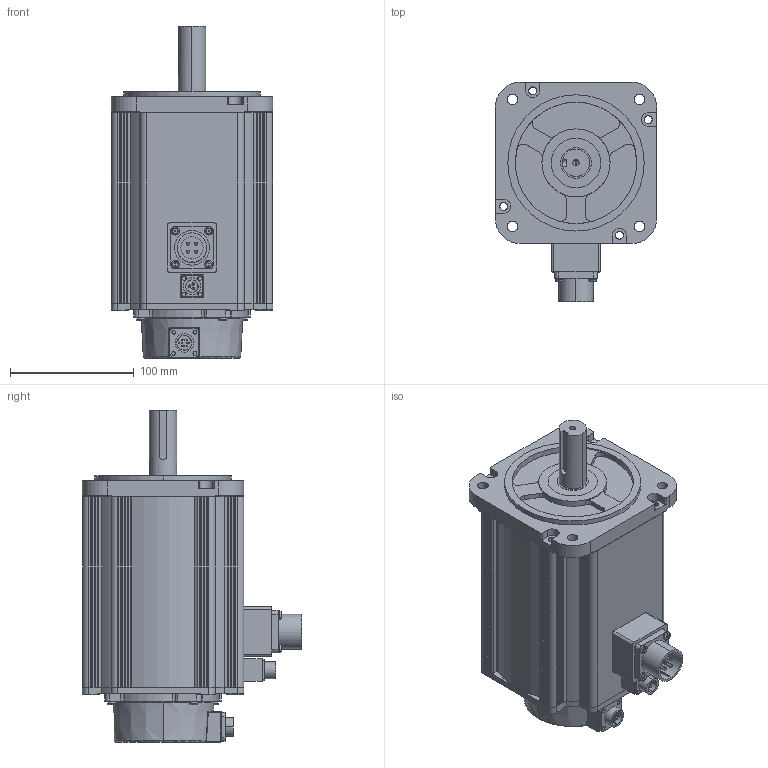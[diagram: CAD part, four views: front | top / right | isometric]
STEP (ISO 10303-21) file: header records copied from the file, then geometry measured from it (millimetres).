
FILE_DESCRIPTION (( 'STEP AP203' ), '1' );
FILE_NAME ('130E-14615 - Z.STEP', '2024-09-05T11:18:38', ( '' ), ( '' ), 'SwSTEP 2.0', 'SolidWorks 2018', '' );
FILE_SCHEMA (( 'CONFIG_CONTROL_DESIGN' ));
Length unit declared in the file: millimetre
Products named in the file (12): 130E-14615 - Z; XS12J3Z; 130A諉盄釱-1; 18-10; 130A綴裔潠謹; 儂褲-14.6N.M -Z; 100惕掅菁釱; 橈勤硉晤鎢ん誘欶  S13E.10-01; 130Aǰ; 堤粣; 蚐猾; SC-CMV1-R10P-E
Assembly tree (11 placements, depth 2):
  130E-14615 - Z
    130A綴裔潠謹
    130A諉盄釱-1
    130Aǰ
    堤粣
    蚐猾
    儂褲-14.6N.M -Z
    XS12J3Z
    100惕掅菁釱
    18-10
    SC-CMV1-R10P-E
    橈勤硉晤鎢ん誘欶  S13E.10-01
Bounding box: 130.2 x 176.9 x 268 mm (x, y, z)
Volume: 821902.9 mm3; surface area: 354070 mm2
Topology: 11 solids, 15 shells, 975 faces, 2606 edges, 1701 vertices
Faces by surface type: plane 537, cylinder 357, torus 45, sphere 18, cone 10, bspline 8
Entity records: 32640 total; most frequent: CARTESIAN_POINT 6397, DIRECTION 5326, ORIENTED_EDGE 5132, EDGE_CURVE 2566, AXIS2_PLACEMENT_3D 1822, VERTEX_POINT 1683, VECTOR 1682, LINE 1682
